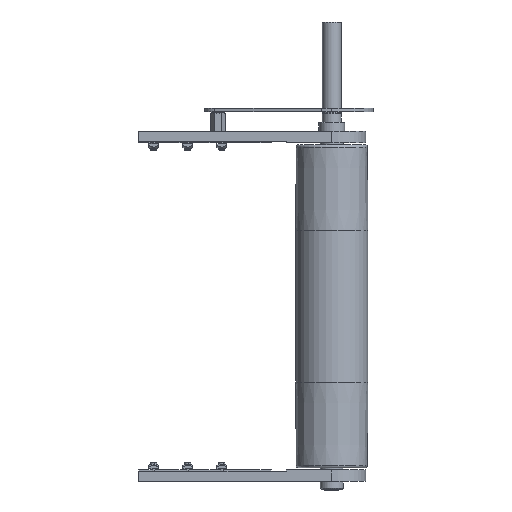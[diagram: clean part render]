
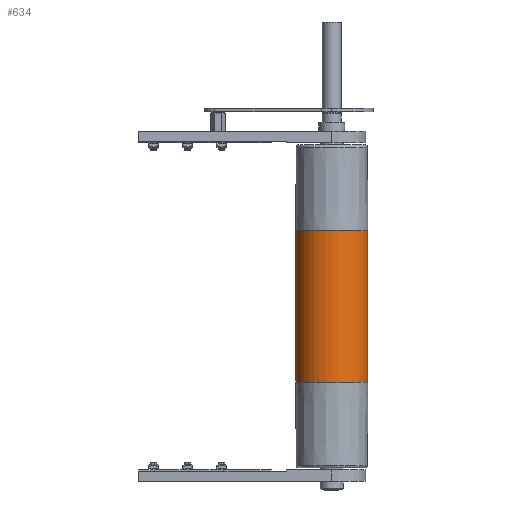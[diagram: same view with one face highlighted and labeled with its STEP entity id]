
A CAD part, front view. The second image highlights one B-rep face of the part: STEP entity #634.
In plain terms, the highlighted cylindrical face has radius 47.5 mm (diameter 95 mm), a partial arc.
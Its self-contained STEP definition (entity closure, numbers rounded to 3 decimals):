
#634 = ADVANCED_FACE ( 'NONE', ( #12629 ), #12633, .T. ) ;
#1844 = EDGE_CURVE ( 'NONE', #2446, #2449, #13418, .T. ) ;
#1845 = EDGE_CURVE ( 'NONE', #2447, #2450, #13421, .T. ) ;
#2193 = EDGE_LOOP ( 'NONE', ( #4220, #4221, #4222, #4223 ) ) ;
#2446 = VERTEX_POINT ( 'NONE', #15841 ) ;
#2447 = VERTEX_POINT ( 'NONE', #15842 ) ;
#2449 = VERTEX_POINT ( 'NONE', #15844 ) ;
#2450 = VERTEX_POINT ( 'NONE', #15845 ) ;
#2594 = EDGE_CURVE ( 'NONE', #2447, #2446, #16548, .T. ) ;
#2595 = EDGE_CURVE ( 'NONE', #2450, #2449, #16549, .T. ) ;
#4220 = ORIENTED_EDGE ( 'NONE', *, *, #1844, .F. ) ;
#4221 = ORIENTED_EDGE ( 'NONE', *, *, #2594, .F. ) ;
#4222 = ORIENTED_EDGE ( 'NONE', *, *, #1845, .T. ) ;
#4223 = ORIENTED_EDGE ( 'NONE', *, *, #2595, .T. ) ;
#10857 = AXIS2_PLACEMENT_3D ( 'NONE', #13695, #13693, #13688 ) ;
#11231 = AXIS2_PLACEMENT_3D ( 'NONE', #16045, #16046, #16047 ) ;
#11232 = AXIS2_PLACEMENT_3D ( 'NONE', #16048, #16049, #16050 ) ;
#12629 = FACE_OUTER_BOUND ( 'NONE', #2193, .T. ) ;
#12633 = CYLINDRICAL_SURFACE ( 'NONE', #10857, 47.5 ) ;
#13418 = LINE ( 'NONE', #15370, #13422 ) ;
#13421 = LINE ( 'NONE', #15376, #13424 ) ;
#13422 = VECTOR ( 'NONE', #15375, 1000. ) ;
#13424 = VECTOR ( 'NONE', #15378, 1000. ) ;
#13688 = DIRECTION ( 'NONE',  ( 0., 0., 1. ) ) ;
#13693 = DIRECTION ( 'NONE',  ( -1., 0., 0. ) ) ;
#13695 = CARTESIAN_POINT ( 'NONE',  ( 210., 0., 0. ) ) ;
#15370 = CARTESIAN_POINT ( 'NONE',  ( 210., 0., -47.5 ) ) ;
#15375 = DIRECTION ( 'NONE',  ( -1., 0., 0. ) ) ;
#15376 = CARTESIAN_POINT ( 'NONE',  ( 210., 0., 47.5 ) ) ;
#15378 = DIRECTION ( 'NONE',  ( -1., 0., 0. ) ) ;
#15841 = CARTESIAN_POINT ( 'NONE',  ( 100., 0., -47.5 ) ) ;
#15842 = CARTESIAN_POINT ( 'NONE',  ( 100., 0., 47.5 ) ) ;
#15844 = CARTESIAN_POINT ( 'NONE',  ( -100., 0., -47.5 ) ) ;
#15845 = CARTESIAN_POINT ( 'NONE',  ( -100., 0., 47.5 ) ) ;
#16045 = CARTESIAN_POINT ( 'NONE',  ( 100., 0., 0. ) ) ;
#16046 = DIRECTION ( 'NONE',  ( 1., 0., 0. ) ) ;
#16047 = DIRECTION ( 'NONE',  ( 0., 0., -1. ) ) ;
#16048 = CARTESIAN_POINT ( 'NONE',  ( -100., 0., 0. ) ) ;
#16049 = DIRECTION ( 'NONE',  ( 1., 0., 0. ) ) ;
#16050 = DIRECTION ( 'NONE',  ( 0., 0., -1. ) ) ;
#16548 = CIRCLE ( 'NONE', #11231, 47.5 ) ;
#16549 = CIRCLE ( 'NONE', #11232, 47.5 ) ;
